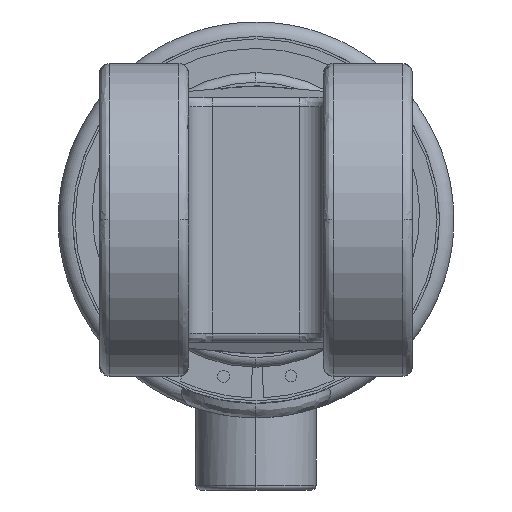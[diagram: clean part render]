
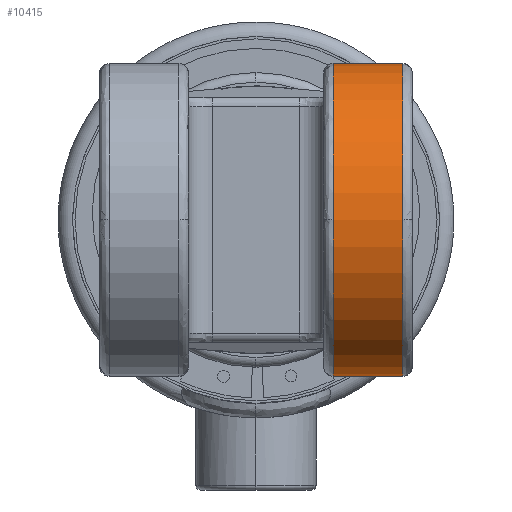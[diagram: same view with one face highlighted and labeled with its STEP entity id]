
A CAD part, left-side view. The second image highlights one B-rep face of the part: STEP entity #10415.
In plain terms, the highlighted cylindrical face has radius 32.5 mm (diameter 65 mm), a partial arc.
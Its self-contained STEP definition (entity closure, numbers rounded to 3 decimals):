
#34 = DIRECTION ( 'NONE',  ( 0., 0., 1. ) ) ;
#58 = CARTESIAN_POINT ( 'NONE',  ( 44.795, -32.5, 32.5 ) ) ;
#116 = ORIENTED_EDGE ( 'NONE', *, *, #8285, .T. ) ;
#334 = AXIS2_PLACEMENT_3D ( 'NONE', #10968, #5674, #381 ) ;
#381 = DIRECTION ( 'NONE',  ( 0., 0., 1. ) ) ;
#496 = CARTESIAN_POINT ( 'NONE',  ( 77.295, -30.5, 0. ) ) ;
#498 = EDGE_CURVE ( 'NONE', #7741, #6723, #7151, .T. ) ;
#792 = CARTESIAN_POINT ( 'NONE',  ( 44.795, -30.5, 32.5 ) ) ;
#966 = DIRECTION ( 'NONE',  ( 0., 1., 0. ) ) ;
#988 = VECTOR ( 'NONE', #966, 1000. ) ;
#999 = CIRCLE ( 'NONE', #334, 32.5 ) ;
#1095 = DIRECTION ( 'NONE',  ( 0., 0., 1. ) ) ;
#2051 = VERTEX_POINT ( 'NONE', #6655 ) ;
#2232 = CARTESIAN_POINT ( 'NONE',  ( 44.795, -16., 32.5 ) ) ;
#2547 = LINE ( 'NONE', #3397, #2819 ) ;
#2819 = VECTOR ( 'NONE', #8721, 1000. ) ;
#3083 = EDGE_CURVE ( 'NONE', #2051, #7887, #2547, .T. ) ;
#3397 = CARTESIAN_POINT ( 'NONE',  ( 44.795, -32.5, -32.5 ) ) ;
#3450 = VERTEX_POINT ( 'NONE', #496 ) ;
#3912 = VERTEX_POINT ( 'NONE', #792 ) ;
#4248 = AXIS2_PLACEMENT_3D ( 'NONE', #9570, #4254, #10465 ) ;
#4254 = DIRECTION ( 'NONE',  ( 0., 1., 0. ) ) ;
#4539 = CARTESIAN_POINT ( 'NONE',  ( 44.795, -16., 0. ) ) ;
#4551 = AXIS2_PLACEMENT_3D ( 'NONE', #10630, #5332, #34 ) ;
#4600 = CARTESIAN_POINT ( 'NONE',  ( 44.795, -32.5, 0. ) ) ;
#5332 = DIRECTION ( 'NONE',  ( 0., 1., 0. ) ) ;
#5352 = ORIENTED_EDGE ( 'NONE', *, *, #498, .F. ) ;
#5432 = DIRECTION ( 'NONE',  ( 1., 0., 0. ) ) ;
#5663 = LINE ( 'NONE', #58, #988 ) ;
#5674 = DIRECTION ( 'NONE',  ( 0., 1., 0. ) ) ;
#5969 = CARTESIAN_POINT ( 'NONE',  ( 44.795, -16., -32.5 ) ) ;
#6123 = CYLINDRICAL_SURFACE ( 'NONE', #9318, 32.5 ) ;
#6600 = CARTESIAN_POINT ( 'NONE',  ( 77.295, -16., 0. ) ) ;
#6655 = CARTESIAN_POINT ( 'NONE',  ( 44.795, -30.5, -32.5 ) ) ;
#6667 = FACE_OUTER_BOUND ( 'NONE', #7983, .T. ) ;
#6723 = VERTEX_POINT ( 'NONE', #6600 ) ;
#6835 = AXIS2_PLACEMENT_3D ( 'NONE', #4539, #10722, #5432 ) ;
#7151 = CIRCLE ( 'NONE', #6835, 32.5 ) ;
#7284 = DIRECTION ( 'NONE',  ( 0., 1., 0. ) ) ;
#7335 = ORIENTED_EDGE ( 'NONE', *, *, #9251, .F. ) ;
#7346 = CIRCLE ( 'NONE', #4248, 32.5 ) ;
#7358 = EDGE_CURVE ( 'NONE', #3450, #2051, #8058, .T. ) ;
#7741 = VERTEX_POINT ( 'NONE', #2232 ) ;
#7887 = VERTEX_POINT ( 'NONE', #5969 ) ;
#7983 = EDGE_LOOP ( 'NONE', ( #116, #9907, #9809, #9139, #5352, #7335 ) ) ;
#8058 = CIRCLE ( 'NONE', #4551, 32.5 ) ;
#8285 = EDGE_CURVE ( 'NONE', #3912, #3450, #999, .T. ) ;
#8721 = DIRECTION ( 'NONE',  ( 0., 1., 0. ) ) ;
#8820 = EDGE_CURVE ( 'NONE', #6723, #7887, #7346, .T. ) ;
#9139 = ORIENTED_EDGE ( 'NONE', *, *, #8820, .F. ) ;
#9251 = EDGE_CURVE ( 'NONE', #3912, #7741, #5663, .T. ) ;
#9318 = AXIS2_PLACEMENT_3D ( 'NONE', #4600, #7284, #1095 ) ;
#9570 = CARTESIAN_POINT ( 'NONE',  ( 44.795, -16., 0. ) ) ;
#9809 = ORIENTED_EDGE ( 'NONE', *, *, #3083, .T. ) ;
#9907 = ORIENTED_EDGE ( 'NONE', *, *, #7358, .T. ) ;
#10415 = ADVANCED_FACE ( 'NONE', ( #6667 ), #6123, .T. ) ;
#10465 = DIRECTION ( 'NONE',  ( 1., 0., 0. ) ) ;
#10630 = CARTESIAN_POINT ( 'NONE',  ( 44.795, -30.5, 0. ) ) ;
#10722 = DIRECTION ( 'NONE',  ( 0., 1., 0. ) ) ;
#10968 = CARTESIAN_POINT ( 'NONE',  ( 44.795, -30.5, 0. ) ) ;
